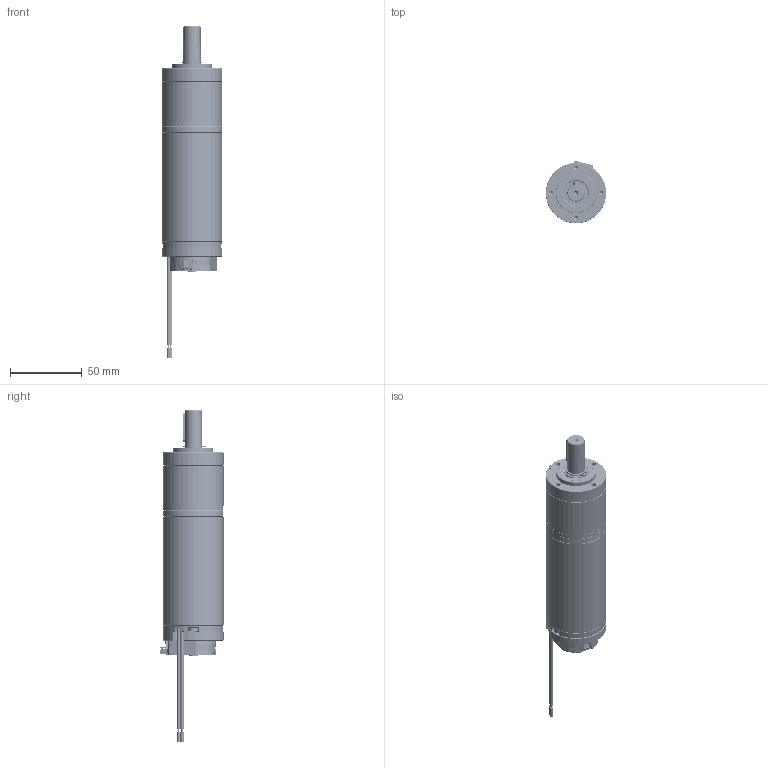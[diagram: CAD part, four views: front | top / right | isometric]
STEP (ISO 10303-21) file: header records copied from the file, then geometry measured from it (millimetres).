
FILE_DESCRIPTION (( 'STEP AP214' ), '1' );
FILE_NAME ('BRx42-40-PGx42 (1 Stage) - Diff Encoder.STEP', '2025-05-13T07:17:31', ( '' ), ( '' ), 'SwSTEP 2.0', 'SolidWorks 2023', '' );
FILE_SCHEMA (( 'AUTOMOTIVE_DESIGN' ));
Length unit declared in the file: millimetre
Products named in the file (1): BRx42-40-PGx42 (1 Stage) - Diff Encoder
Bounding box: 42 x 43.94 x 231.35 mm (x, y, z)
Volume: 106703.4 mm3; surface area: 68710.8 mm2
Topology: 28 solids, 28 shells, 7893 faces, 20921 edges, 13756 vertices
Faces by surface type: plane 5165, cylinder 1757, cone 496, bspline 227, torus 224, sphere 24
Entity records: 343341 total; most frequent: CARTESIAN_POINT 58634, ORIENTED_EDGE 41792, DIRECTION 39771, EDGE_CURVE 20896, VECTOR 14771, LINE 14771, VERTEX_POINT 13756, AXIS2_PLACEMENT_3D 12500
